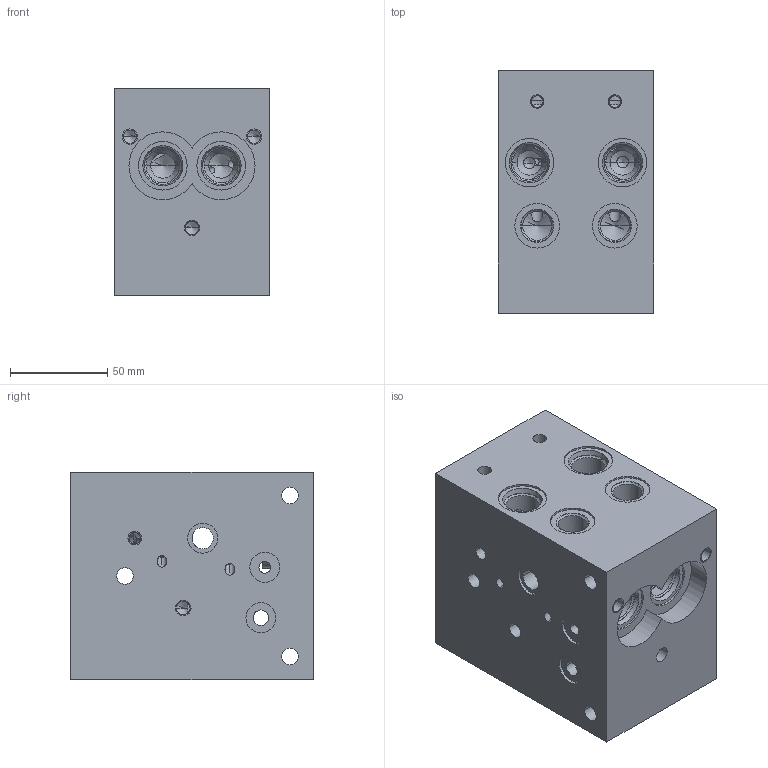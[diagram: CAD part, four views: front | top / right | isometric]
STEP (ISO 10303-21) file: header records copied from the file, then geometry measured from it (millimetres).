
FILE_DESCRIPTION((''),'2;1');
FILE_NAME('419514_PRT','2021-10-05T10:48:15',('windchill'),(''),'CREO PARAMETRIC BY PTC INC, 2019444','CREO PARAMETRIC BY PTC INC, 2019444','');
FILE_SCHEMA(('AUTOMOTIVE_DESIGN { 1 0 10303 214 1 1 1 1 }'));
Length unit declared in the file: millimetre
Products named in the file (1): 419514_PRT
Bounding box: 80 x 125 x 107 mm (x, y, z)
Volume: 877431 mm3; surface area: 127504.6 mm2
Topology: 1 solids, 17 shells, 428 faces, 1622 edges, 1260 vertices
Faces by surface type: cylinder 234, cone 157, plane 37
Entity records: 27839 total; most frequent: CARTESIAN_POINT 8518, DIRECTION 2728, ORIENTED_EDGE 2154, PRESENTATION_STYLE_ASSIGNMENT 1609, STYLED_ITEM 1603, CURVE_STYLE 1586, EDGE_CURVE 1109, AXIS2_PLACEMENT_3D 932
